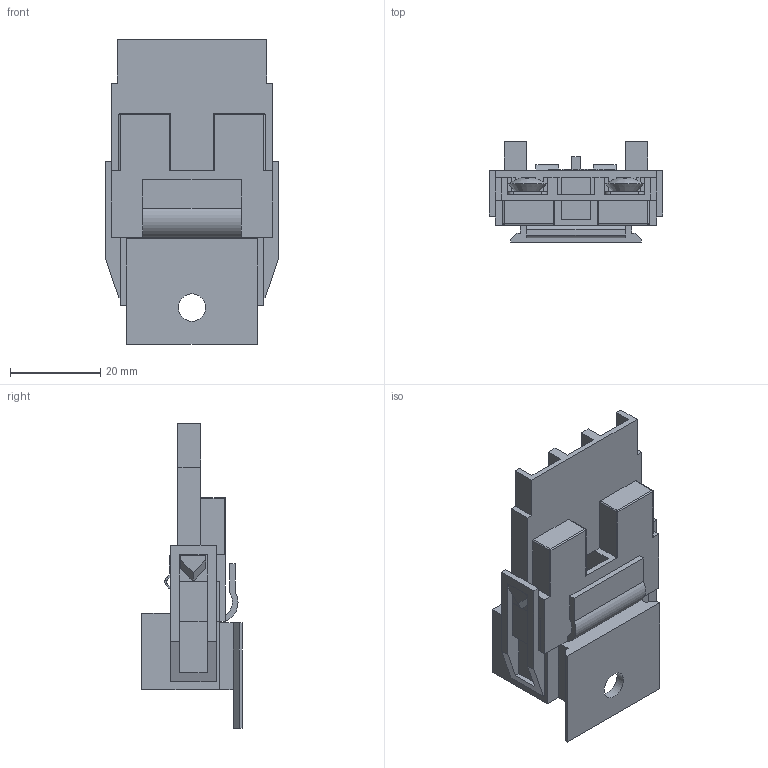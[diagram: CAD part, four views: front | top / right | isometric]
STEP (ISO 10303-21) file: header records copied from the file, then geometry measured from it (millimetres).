
FILE_DESCRIPTION(/* description */ (''),/* implementation_level */ '2;1');
FILE_NAME(/* name */ 'C:\Users\Hani\Desktop\work\BLX-01\BLX-01.stp',/* time_stamp */ '2021-07-25T08:31:32-07:00',/* author */ ('Hani'),/* organization */ (''),/* preprocessor_version */ 'ST-DEVELOPER v17',/* originating_system */ 'Autodesk Inventor 2019',/* authorisation */ '');
FILE_SCHEMA (('AUTOMOTIVE_DESIGN { 1 0 10303 214 3 1 1 }'));
Length unit declared in the file: inch
Products named in the file (6): BLX-01; BLX-01_1; terminal; terminal_MIR; screw; screw_MIR
Assembly tree (5 placements, depth 2):
  BLX-01
    BLX-01_1
    terminal
    terminal_MIR
    screw
    screw_MIR
Bounding box: 38.61 x 22.35 x 67.56 mm (x, y, z)
Volume: 10743.4 mm3; surface area: 15911.1 mm2
Topology: 5 solids, 5 shells, 487 faces, 1399 edges, 926 vertices
Faces by surface type: plane 353, bspline 75, cylinder 39, cone 14, sphere 6
Full cylindrical faces by diameter (mm): 2.332 x4, 4.166 x6, 5.08 x4, 6.096 x1
Entity records: 19232 total; most frequent: CARTESIAN_POINT 6733, ORIENTED_EDGE 2798, DIRECTION 2139, EDGE_CURVE 1399, LINE 1081, VECTOR 1081, VERTEX_POINT 926, AXIS2_PLACEMENT_3D 529
